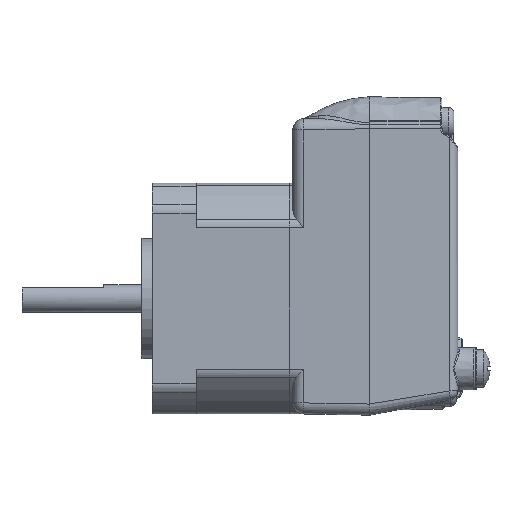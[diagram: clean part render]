
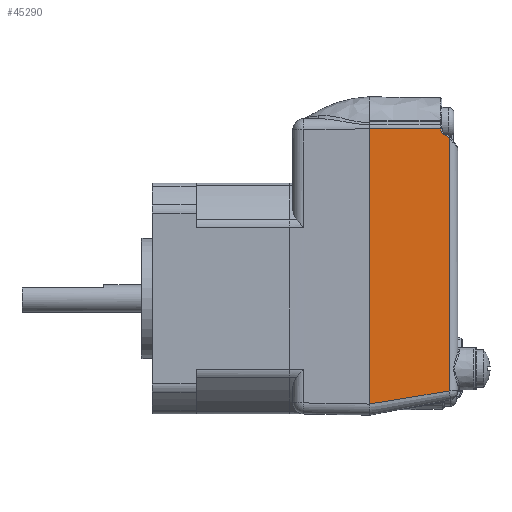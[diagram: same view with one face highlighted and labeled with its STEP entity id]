
A CAD part, left-side view. The second image highlights one B-rep face of the part: STEP entity #45290.
In plain terms, the highlighted planar face has unit normal (-1, -0.018, 0).
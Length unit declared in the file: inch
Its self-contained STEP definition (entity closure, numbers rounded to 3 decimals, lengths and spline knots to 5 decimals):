
#6256=CARTESIAN_POINT('',(-1.69245,0.97775,-0.81352));
#6257=VERTEX_POINT('',#6256);
#6265=CARTESIAN_POINT('',(-1.69245,0.97775,1.16945));
#6266=VERTEX_POINT('',#6265);
#6267=CARTESIAN_POINT('',(-1.69245,0.97775,0.17809));
#6268=DIRECTION('',(0.,0.,-1.));
#6269=VECTOR('',#6268,1.);
#6270=LINE('',#6267,#6269);
#6271=EDGE_CURVE('',#6266,#6257,#6270,.T.);
#33223=CARTESIAN_POINT('',(-1.68241,0.40259,1.1028));
#33224=VERTEX_POINT('',#33223);
#39526=CARTESIAN_POINT('',(-1.68347,0.46442,1.16905));
#39527=VERTEX_POINT('',#39526);
#39612=CARTESIAN_POINT('',(-1.68241,0.40259,-0.71957));
#39613=VERTEX_POINT('',#39612);
#39614=CARTESIAN_POINT('',(-1.68241,0.40259,0.12665));
#39615=DIRECTION('',(0.,0.,-1.));
#39616=VECTOR('',#39615,0.062);
#39617=LINE('',#39614,#39616);
#39618=EDGE_CURVE('',#33224,#39613,#39617,.T.);
#39635=CARTESIAN_POINT('',(-1.68293,0.43237,1.1234));
#39636=VERTEX_POINT('',#39635);
#39637=CARTESIAN_POINT('',(-1.68262,0.41446,1.17008));
#39638=DIRECTION('',(-1.,-0.017,0.));
#39639=DIRECTION('',(-0.017,0.999,-0.047));
#39640=AXIS2_PLACEMENT_3D('',#39637,#39638,#39639);
#39641=CIRCLE('',#39640,0.05);
#39642=EDGE_CURVE('',#39527,#39636,#39641,.T.);
#39813=CARTESIAN_POINT('',(-1.68277,0.42295,1.11978));
#39814=VERTEX_POINT('',#39813);
#39815=CARTESIAN_POINT('',(-1.6813,0.33875,1.08746));
#39816=DIRECTION('',(0.016,-0.933,-0.358));
#39817=VECTOR('',#39816,0.01);
#39818=LINE('',#39815,#39817);
#39819=EDGE_CURVE('',#39636,#39814,#39818,.T.);
#39838=CARTESIAN_POINT('',(-1.68245,0.40513,1.10623));
#39839=VERTEX_POINT('',#39838);
#39840=CARTESIAN_POINT('',(-1.68302,0.43728,1.08243));
#39841=DIRECTION('',(1.,0.017,0.));
#39842=DIRECTION('',(0.006,-0.358,0.934));
#39843=AXIS2_PLACEMENT_3D('',#39840,#39841,#39842);
#39844=CIRCLE('',#39843,0.04001);
#39845=EDGE_CURVE('',#39814,#39839,#39844,.T.);
#39956=CARTESIAN_POINT('',(-1.67646,0.06144,0.64177));
#39957=DIRECTION('',(0.01,-0.595,-0.804));
#39958=VECTOR('',#39957,0.01);
#39959=LINE('',#39956,#39958);
#39960=EDGE_CURVE('',#39839,#33224,#39959,.T.);
#44938=CARTESIAN_POINT('',(-1.69245,0.97775,1.16945));
#44939=CARTESIAN_POINT('',(-1.69203,0.95358,1.16937));
#44940=CARTESIAN_POINT('',(-1.69161,0.92941,1.16929));
#44941=CARTESIAN_POINT('',(-1.69118,0.90524,1.16921));
#44942=CARTESIAN_POINT('',(-1.69075,0.88018,1.16912));
#44943=CARTESIAN_POINT('',(-1.69031,0.85512,1.16903));
#44944=CARTESIAN_POINT('',(-1.68987,0.83006,1.16895));
#44945=CARTESIAN_POINT('',(-1.6896,0.8144,1.1689));
#44946=CARTESIAN_POINT('',(-1.68933,0.79873,1.16884));
#44947=CARTESIAN_POINT('',(-1.68905,0.78307,1.16879));
#44948=CARTESIAN_POINT('',(-1.68888,0.77328,1.16876));
#44949=CARTESIAN_POINT('',(-1.68871,0.7635,1.16872));
#44950=CARTESIAN_POINT('',(-1.68854,0.75371,1.16869));
#44951=CARTESIAN_POINT('',(-1.68832,0.74089,1.16865));
#44952=CARTESIAN_POINT('',(-1.68809,0.72808,1.1686));
#44953=CARTESIAN_POINT('',(-1.68787,0.71527,1.16856));
#44954=CARTESIAN_POINT('',(-1.68751,0.69477,1.16849));
#44955=CARTESIAN_POINT('',(-1.68715,0.67427,1.16842));
#44956=CARTESIAN_POINT('',(-1.68679,0.65377,1.16835));
#44957=CARTESIAN_POINT('',(-1.68622,0.62097,1.16824));
#44958=CARTESIAN_POINT('',(-1.68565,0.58817,1.16813));
#44959=CARTESIAN_POINT('',(-1.68508,0.55537,1.16803));
#44960=CARTESIAN_POINT('',(-1.68455,0.52505,1.16792));
#44961=CARTESIAN_POINT('',(-1.68402,0.49474,1.16782));
#44962=CARTESIAN_POINT('',(-1.68349,0.46443,1.16772));
#44963=B_SPLINE_CURVE_WITH_KNOTS('',3,(#44938,#44939,#44940,#44941,#44942,#44943,#44944,#44945,#44946,#44947,#44948,#44949,#44950,#44951,#44952,#44953,#44954,#44955,#44956,#44957,#44958,#44959,#44960,#44961,#44962),.UNSPECIFIED.,.F.,.F.,(4,3,3,3,3,3,3,3,4),(0.00501,0.07754,0.15273,0.19972,0.22909,0.26754,0.32905,0.42746,0.51842),.UNSPECIFIED.);
#44964=EDGE_CURVE('',#6266,#39527,#44963,.T.);
#45270=ORIENTED_EDGE('',*,*,#39642,.F.);
#45271=ORIENTED_EDGE('',*,*,#44964,.F.);
#45272=ORIENTED_EDGE('',*,*,#6271,.T.);
#45273=CARTESIAN_POINT('',(-1.69263,0.98801,-0.8152));
#45274=DIRECTION('',(-0.017,0.987,-0.161));
#45275=VECTOR('',#45274,0.64312);
#45276=LINE('',#45273,#45275);
#45277=EDGE_CURVE('',#39613,#6257,#45276,.T.);
#45278=ORIENTED_EDGE('',*,*,#45277,.F.);
#45279=ORIENTED_EDGE('',*,*,#39618,.F.);
#45280=ORIENTED_EDGE('',*,*,#39960,.F.);
#45281=ORIENTED_EDGE('',*,*,#39845,.F.);
#45282=ORIENTED_EDGE('',*,*,#39819,.F.);
#45283=EDGE_LOOP('',(#45270,#45271,#45272,#45278,#45279,#45280,#45281,#45282));
#45284=FACE_OUTER_BOUND('',#45283,.T.);
#45285=CARTESIAN_POINT('',(-1.68739,0.68766,0.17825));
#45286=DIRECTION('',(-1.,-0.017,0.));
#45287=DIRECTION('',(0.,0.,1.));
#45288=AXIS2_PLACEMENT_3D('',#45285,#45286,#45287);
#45289=PLANE('',#45288);
#45290=ADVANCED_FACE('',(#45284),#45289,.T.);
